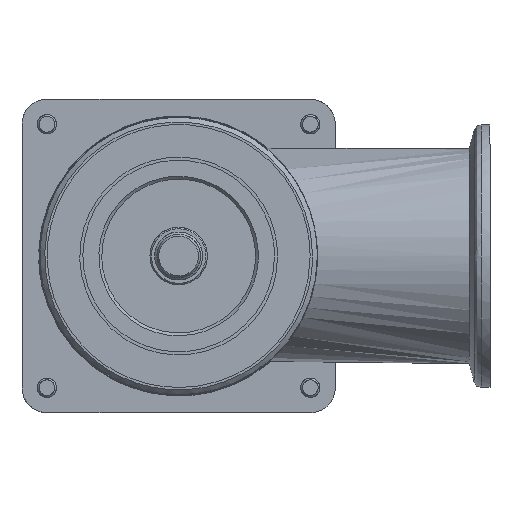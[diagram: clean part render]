
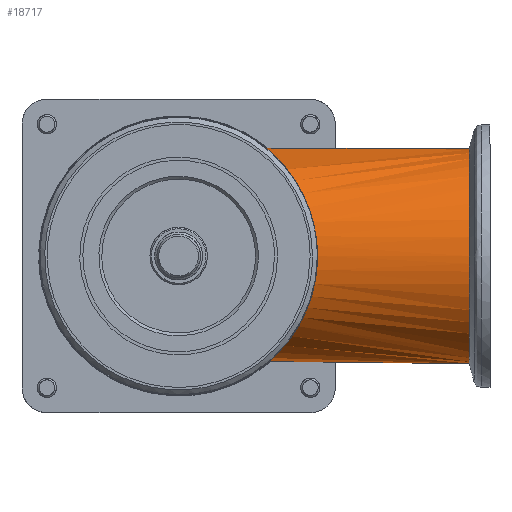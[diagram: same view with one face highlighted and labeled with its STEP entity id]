
A CAD part, front view. The second image highlights one B-rep face of the part: STEP entity #18717.
In plain terms, the highlighted free-form (B-spline) face has degree [2, 1] with [7, 2] control points.
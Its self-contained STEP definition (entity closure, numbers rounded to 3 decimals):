
#18610=CARTESIAN_POINT('V3',(4.326,22.5,
   0.0));
#18611=VERTEX_POINT('V3',#18610);
#18617=CARTESIAN_POINT('E5',(4.326,22.5,
   0.0));
#18618=CARTESIAN_POINT('E5',(4.326,22.5,
   38.971));
#18619=CARTESIAN_POINT('E5',(4.326,-11.25,
   19.486));
#18620=CARTESIAN_POINT('E5',(4.326,-45.,
   0.));
#18621=CARTESIAN_POINT('E5',(4.326,-11.25,
   -19.486));
#18622=CARTESIAN_POINT('E5',(4.326,22.5,
   -38.971));
#18623=CARTESIAN_POINT('E5',(4.326,22.5,
   0.0));
#18631=(BOUNDED_CURVE()B_SPLINE_CURVE(2,(#18617,#18618,#18619,
   #18620,#18621,#18622,#18623),.CIRCULAR_ARC.,.T.,.U.)
   B_SPLINE_CURVE_WITH_KNOTS((3,2,2,3),(0.0,1.785,
   3.569,5.354),.UNSPECIFIED.)CURVE()
   GEOMETRIC_REPRESENTATION_ITEM()RATIONAL_B_SPLINE_CURVE((1.0,
   0.5,1.0,0.5,1.0,0.5,1.0)
   )REPRESENTATION_ITEM('E5'));
#18632=EDGE_CURVE('E5',#18611,#18611,#18631,.T.);
#18639=CARTESIAN_POINT('F7',(4.326,22.5,
   0.0));
#18640=CARTESIAN_POINT('F7',(4.326,22.5,
   38.971));
#18641=CARTESIAN_POINT('F7',(4.326,-11.25,
   19.486));
#18642=CARTESIAN_POINT('F7',(4.326,-45.,
   0.));
#18643=CARTESIAN_POINT('F7',(4.326,-11.25,
   -19.486));
#18644=CARTESIAN_POINT('F7',(4.326,22.5,
   -38.971));
#18645=CARTESIAN_POINT('F7',(4.326,22.5,
   0.0));
#18646=CARTESIAN_POINT('F7',(48.,22.5,
   0.0));
#18647=CARTESIAN_POINT('F7',(48.,22.5,
   38.971));
#18648=CARTESIAN_POINT('F7',(48.,-11.25,
   19.486));
#18649=CARTESIAN_POINT('F7',(48.,-45.,
   0.));
#18650=CARTESIAN_POINT('F7',(48.,-11.25,
   -19.486));
#18651=CARTESIAN_POINT('F7',(48.,22.5,
   -38.971));
#18652=CARTESIAN_POINT('F7',(48.,22.5,
   0.0));
#18660=(BOUNDED_SURFACE()B_SPLINE_SURFACE(2,1,((#18639,#18646),(
   #18640,#18647),(#18641,#18648),(#18642,#18649),(#18643,
   #18650),(#18644,#18651),(#18645,#18652)),.CYLINDRICAL_SURF.,
   .T.,.F.,.U.)B_SPLINE_SURFACE_WITH_KNOTS((3,2,2,3),(2,2),(0.0,
   1.785,3.569,5.354),(0.0,1.0),
   .UNSPECIFIED.)GEOMETRIC_REPRESENTATION_ITEM()
   RATIONAL_B_SPLINE_SURFACE(((1.0,1.0),(0.5,
   0.5),(1.0,1.0),(0.5,
   0.5),(1.0,1.0),(0.5,
   0.5),(1.0,1.0)))REPRESENTATION_ITEM('F7')SURFACE()
   );
#18661=CARTESIAN_POINT('V8',(36.,22.5,
   0.0));
#18662=VERTEX_POINT('V8',#18661);
#18663=CARTESIAN_POINT('E12',(36.,22.5,
   0.0));
#18664=CARTESIAN_POINT('E12',(36.,22.5,
   -1.358));
#18665=CARTESIAN_POINT('E12',(36.096,22.377,
   -2.705));
#18666=CARTESIAN_POINT('E12',(36.726,21.559,
   -7.203));
#18667=CARTESIAN_POINT('E12',(37.643,20.362,
   -9.921));
#18668=CARTESIAN_POINT('E12',(39.999,17.088,
   -15.045));
#18669=CARTESIAN_POINT('E12',(41.626,14.696,
   -17.298));
#18670=CARTESIAN_POINT('E12',(44.454,9.594,
   -20.584));
#18671=CARTESIAN_POINT('E12',(45.771,6.657,
   -21.722));
#18672=CARTESIAN_POINT('E12',(46.507,2.793,
   -22.339));
#18673=CARTESIAN_POINT('E12',(46.608,2.027,
   -22.422));
#18674=CARTESIAN_POINT('E12',(46.713,0.494,
   -22.507));
#18675=CARTESIAN_POINT('E12',(46.718,-0.262,
   -22.511));
#18676=CARTESIAN_POINT('E12',(46.595,-2.461,
   -22.411));
#18677=CARTESIAN_POINT('E12',(46.347,-3.859,
   -22.21));
#18678=CARTESIAN_POINT('E12',(45.608,-6.553,
   -21.569));
#18679=CARTESIAN_POINT('E12',(45.124,-7.843,
   -21.132));
#18680=CARTESIAN_POINT('E12',(43.257,-12.045,
   -19.28));
#18681=CARTESIAN_POINT('E12',(41.451,-14.925,
   -17.238));
#18682=CARTESIAN_POINT('E12',(38.449,-19.296,
   -11.99));
#18683=CARTESIAN_POINT('E12',(37.103,-21.066,
   -8.829));
#18684=CARTESIAN_POINT('E12',(36.054,-22.432,
   -2.826));
#18685=CARTESIAN_POINT('E12',(35.919,-22.604,
   -0.591));
#18686=CARTESIAN_POINT('E12',(36.146,-22.312,
   3.387));
#18687=CARTESIAN_POINT('E12',(36.399,-21.985,
   5.078));
#18688=CARTESIAN_POINT('E12',(37.458,-20.595,
   9.536));
#18689=CARTESIAN_POINT('E12',(38.482,-19.227,
   11.951));
#18690=CARTESIAN_POINT('E12',(41.265,-15.223,
   17.038));
#18691=CARTESIAN_POINT('E12',(43.22,-12.152,
   19.248));
#18692=CARTESIAN_POINT('E12',(45.614,-6.723,
   21.614));
#18693=CARTESIAN_POINT('E12',(46.48,-4.084,
   22.317));
#18694=CARTESIAN_POINT('E12',(46.759,0.274,
   22.545));
#18695=CARTESIAN_POINT('E12',(46.678,1.703,
   22.481));
#18696=CARTESIAN_POINT('E12',(45.974,5.887,
   21.895));
#18697=CARTESIAN_POINT('E12',(44.933,8.481,
   21.007));
#18698=CARTESIAN_POINT('E12',(42.381,13.502,
   18.26));
#18699=CARTESIAN_POINT('E12',(40.673,16.101,
   16.113));
#18700=CARTESIAN_POINT('E12',(38.111,19.735,
   11.121));
#18701=CARTESIAN_POINT('E12',(37.094,21.077,
   8.492));
#18702=CARTESIAN_POINT('E12',(36.175,22.276,
   3.648));
#18703=CARTESIAN_POINT('E12',(36.,22.5,
   1.836));
#18704=CARTESIAN_POINT('E12',(36.,22.5,
   0.0));
#18705=B_SPLINE_CURVE_WITH_KNOTS('E12',3,(#18663,#18664,#18665,
   #18666,#18667,#18668,#18669,#18670,#18671,#18672,#18673,#18674,
   #18675,#18676,#18677,#18678,#18679,#18680,#18681,#18682,#18683,
   #18684,#18685,#18686,#18687,#18688,#18689,#18690,#18691,#18692,
   #18693,#18694,#18695,#18696,#18697,#18698,#18699,#18700,#18701,
   #18702,#18703,#18704),.UNSPECIFIED.,.T.,.U.,(4,2,2,2,2,2,2,2,2,2,
   2,2,2,2,2,2,2,2,2,2,4),(0.0,0.023,0.08,
   0.155,0.232,0.251,
   0.269,0.304,0.338,
   0.421,0.492,0.531,
   0.562,0.616,0.701,
   0.762,0.792,0.851,
   0.92,0.971,1.0),.UNSPECIFIED.);
#18706=EDGE_CURVE('E12',#18662,#18662,#18705,.T.);
#18707=ORIENTED_EDGE('E12',*,*,#18706,.F.);
#18708=CARTESIAN_POINT('E13',(36.,22.5,
   0.0));
#18709=CARTESIAN_POINT('E13',(4.326,22.5,
   0.0));
#18710=B_SPLINE_CURVE_WITH_KNOTS('E13',1,(#18708,#18709),
   .POLYLINE_FORM.,.F.,.U.,(2,2),(0.275,1.0),
   .UNSPECIFIED.);
#18711=EDGE_CURVE('E13',#18662,#18611,#18710,.T.);
#18712=ORIENTED_EDGE('E13',*,*,#18711,.T.);
#18713=ORIENTED_EDGE('E5',*,*,#18632,.F.);
#18714=ORIENTED_EDGE('E13',*,*,#18711,.F.);
#18715=EDGE_LOOP('F7',(#18707,#18712,#18713,#18714));
#18716=FACE_OUTER_BOUND('F7',#18715,.F.);
#18717=ADVANCED_FACE('F7',(#18716),#18660,.T.);
